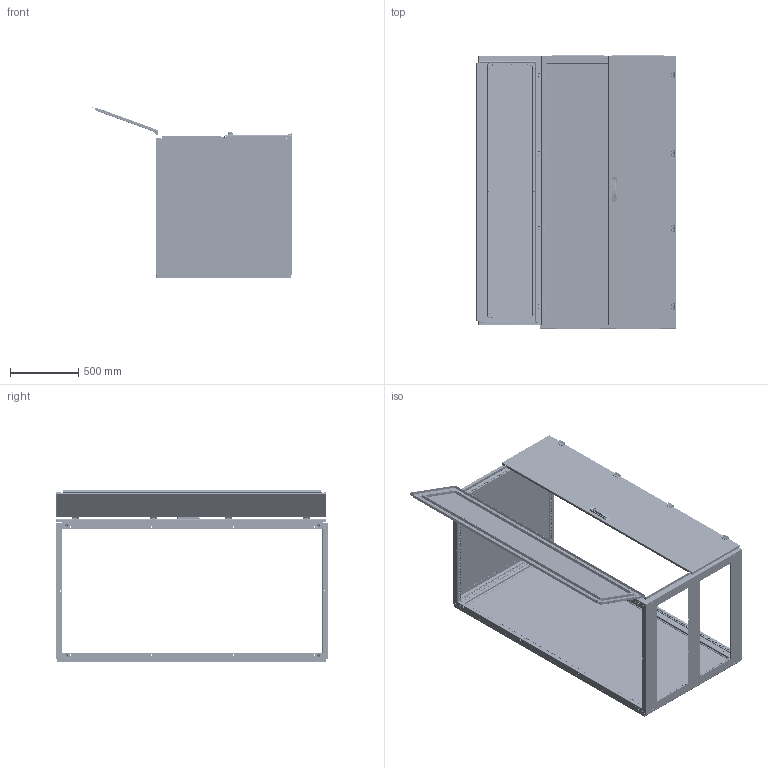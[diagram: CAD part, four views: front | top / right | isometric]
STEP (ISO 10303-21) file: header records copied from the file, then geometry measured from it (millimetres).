
FILE_DESCRIPTION (( 'STEP AP214' ), '1' );
FILE_NAME ('QA201010.step', '2011-08-11T10:02:09', ( 'Radek Veselý' ), ( 'Siemens and Partners' ), 'SwSTEP 2.0', 'SolidWorks 2006303', '' );
FILE_SCHEMA (( 'AUTOMOTIVE_DESIGN' ));
Length unit declared in the file: millimetre
Products named in the file (1): QA201010
Bounding box: 1468.78 x 2004.5 x 1262.7 mm (x, y, z)
Volume: 15693192.1 mm3; surface area: 18083036.6 mm2
Topology: 158 solids, 158 shells, 9522 faces, 26444 edges, 17211 vertices
Faces by surface type: plane 4780, cylinder 3936, cone 486, bspline 267, torus 53
Entity records: 394931 total; most frequent: CARTESIAN_POINT 70666, DIRECTION 52486, ORIENTED_EDGE 52208, EDGE_CURVE 26104, AXIS2_PLACEMENT_3D 17756, VERTEX_POINT 17211, LINE 16974, VECTOR 16974
